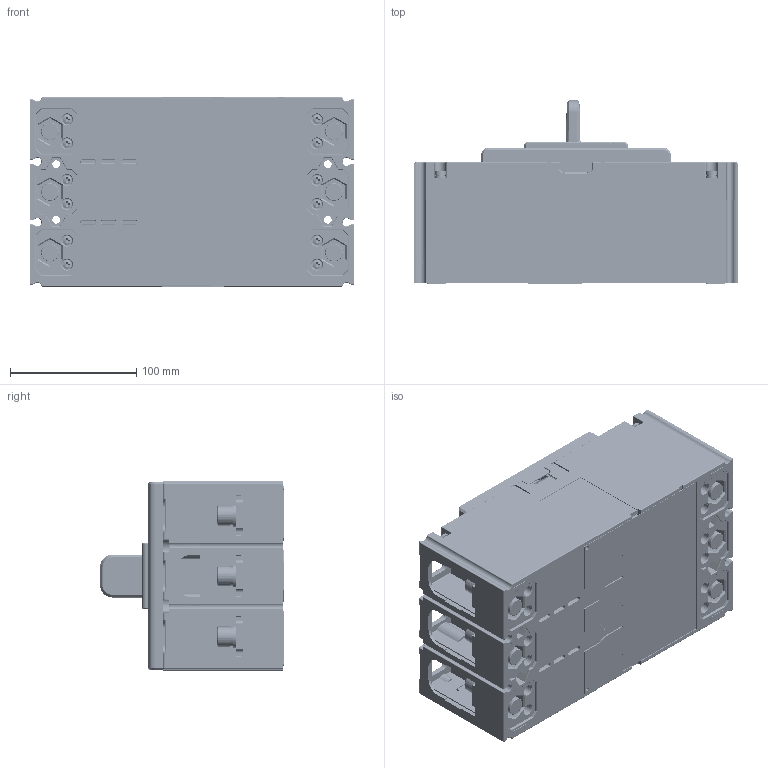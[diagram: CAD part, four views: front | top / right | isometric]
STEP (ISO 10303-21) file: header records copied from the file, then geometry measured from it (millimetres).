
FILE_DESCRIPTION((''),'2;1');
FILE_NAME('CD3MV-630F-3300-630A_ASM','2021-06-18T',('zhenjiang.nong'),(''),'PRO/ENGINEER BY PARAMETRIC TECHNOLOGY CORPORATION, 2015440','PRO/ENGINEER BY PARAMETRIC TECHNOLOGY CORPORATION, 2015440','');
FILE_SCHEMA(('CONFIG_CONTROL_DESIGN'));
Products named in the file (68): PRT0075; PRT0076; ASM0015_ASM; PRT0077; PRT0078; PRT0079; PRT0080; PRT0081; ASM0016_ASM; PRT0086; PRT0087; PRT0088; PRT0089; ASM0021_ASM; PRT0093; ASM0022_ASM; PRT0094; PRT0095; ASM0023_ASM; ASM0019_ASM; ASM0017_ASM; ASM0026_ASM; ASM0025_ASM; ASM0027_ASM; ASM0024_ASM; ASM0028_ASM; PRT0137; 7080100022_GB_T6170_M3_R_2; PRT0140; PRT0141; PRT0142; ASM0029_ASM; PRT0143; 7090300401K_GB_T93_4_2; GB_T97_4-4_2; ASM0030_ASM; ASM0014_ASM; PRT0150; PRT0151; PRT0152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
Assembly tree (124 placements, depth 7):
  CD3MV-630F-3300-630A_ASM
    ASM0013_ASM
      ASM0014_ASM
        ASM0015_ASM
          PRT0075
          PRT0076  x6
        PRT0077  x6
        ASM0016_ASM  x3
          PRT0078
          PRT0079
          PRT0080
          PRT0081
        ASM0017_ASM
          ASM0019_ASM  x3
            PRT0086
            PRT0087
            ASM0021_ASM
              PRT0088
              PRT0089
            ASM0022_ASM
              PRT0093
            ASM0023_ASM
              PRT0094
              PRT0095
        ASM0024_ASM
          ASM0025_ASM
            ASM0026_ASM
          ASM0027_ASM
        ASM0028_ASM
        PRT0137  x3
        7080100022_GB_T6170_M3_R_2  x3
        ASM0029_ASM  x3
          PRT0140
          PRT0141
          PRT0142
        ASM0030_ASM  x15
          PRT0143
          7090300401K_GB_T93_4_2
          GB_T97_4-4_2
      PRT0150  x3
      PRT0151  x3
      ASM0032_ASM
        PRT0152
        PRT0153
        PRT0154
      PRT0156  x3
      ASM0033_ASM  x6
        PRT0157
        PRT0158
        PRT0159
      ASM0034_ASM
        ASM0035_ASM
          PRT0160
          PRT0161  x4
        PRT0162
        PRT0163
      ASM0036_ASM  x6
        PRT0164
        PRT0165
        PRT0166
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Bounding box: 257 x 145.8 x 150 mm (x, y, z)
Volume: 1513273.4 mm3; surface area: 747605.8 mm2
Topology: 178 solids, 253 shells, 9736 faces, 25282 edges, 16041 vertices
Faces by surface type: plane 5530, cylinder 2779, torus 469, cone 424, extrusion 215, sphere 189, bspline 130
Entity records: 240008 total; most frequent: CARTESIAN_POINT 56675, ORIENTED_EDGE 38470, DIRECTION 37253, EDGE_CURVE 19271, VECTOR 13517, LINE 13302, VERTEX_POINT 12353, AXIS2_PLACEMENT_3D 11868
